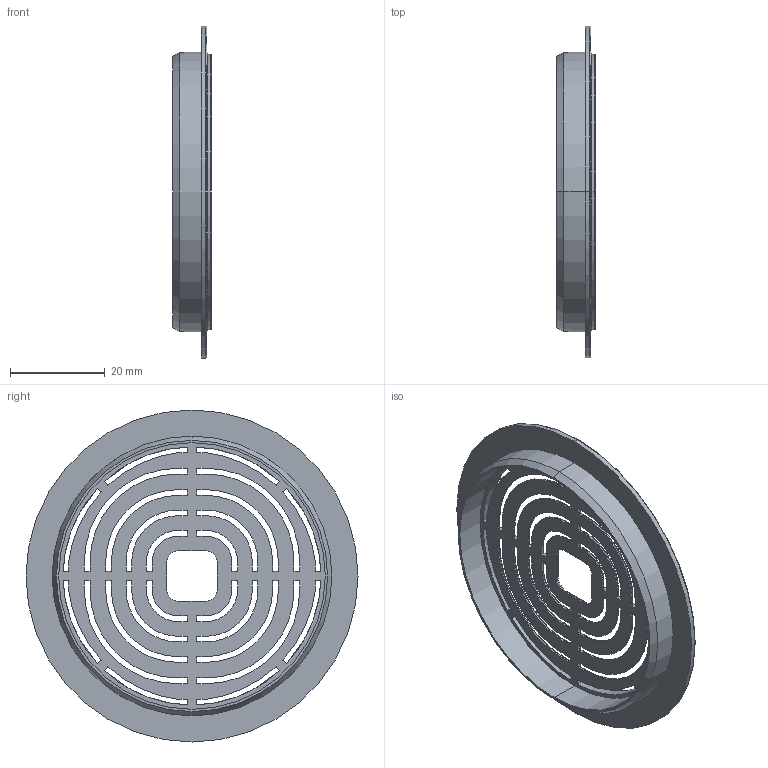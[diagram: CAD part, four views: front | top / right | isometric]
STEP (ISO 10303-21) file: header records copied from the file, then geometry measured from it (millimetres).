
FILE_DESCRIPTION((''),'2;1');
FILE_NAME('0VRP75_231116','2025-12-30T10:50:52',('niepogodzinskij'),(''),'CREO PARAMETRIC BY PTC INC, 2025010','CREO PARAMETRIC BY PTC INC, 2025010','');
FILE_SCHEMA(('CONFIG_CONTROL_DESIGN'));
Length unit declared in the file: millimetre
Products named in the file (1): 0VRP75_231116
Bounding box: 8.1 x 70 x 70 mm (x, y, z)
Volume: 4669.7 mm3; surface area: 9571.5 mm2
Topology: 1 solids, 1 shells, 314 faces, 858 edges, 542 vertices
Faces by surface type: plane 130, cylinder 84, torus 52, cone 48
Entity records: 10228 total; most frequent: CARTESIAN_POINT 2152, ORIENTED_EDGE 1716, DIRECTION 1640, EDGE_CURVE 858, AXIS2_PLACEMENT_3D 572, VERTEX_POINT 542, VECTOR 496, LINE 496
